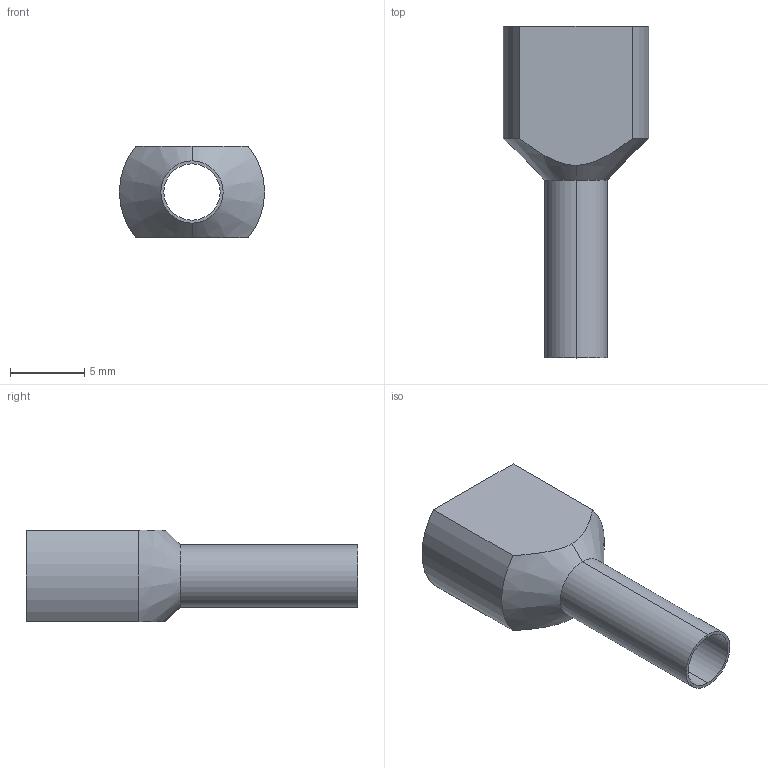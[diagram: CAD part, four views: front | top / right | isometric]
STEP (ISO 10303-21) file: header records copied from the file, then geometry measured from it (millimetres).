
FILE_DESCRIPTION (( 'STEP AP214' ), '1' );
FILE_NAME ('278051 OptiKit T-Shv2-PVC-4,0-12.STEP', '2020-02-19T10:35:37', ( '' ), ( '' ), 'SwSTEP 2.0', 'SolidWorks 2018', '' );
FILE_SCHEMA (( 'AUTOMOTIVE_DESIGN' ));
Length unit declared in the file: millimetre
Products named in the file (1): 278051 OptiKit T-Shv2-PVC-4,0-12
Bounding box: 9.8 x 22.4 x 6.2 mm (x, y, z)
Volume: 87.5 mm3; surface area: 883.6 mm2
Topology: 1 solids, 1 shells, 18 faces, 44 edges, 28 vertices
Faces by surface type: cylinder 8, plane 6, cone 4
Entity records: 844 total; most frequent: CARTESIAN_POINT 183, DIRECTION 90, ORIENTED_EDGE 88, EDGE_CURVE 44, AXIS2_PLACEMENT_3D 35, VERTEX_POINT 28, UNCERTAINTY_MEASURE_WITH_UNIT 21, COLOUR_RGB 20
